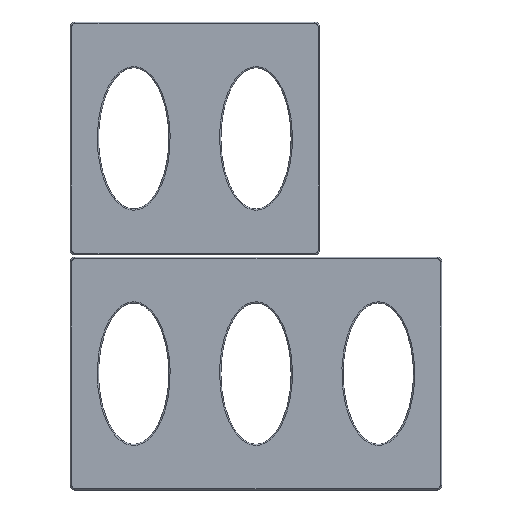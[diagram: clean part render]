
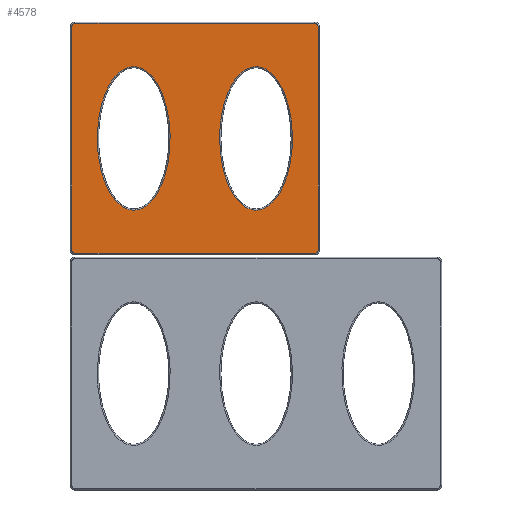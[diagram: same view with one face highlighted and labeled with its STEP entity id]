
A CAD part, front view. The second image highlights one B-rep face of the part: STEP entity #4578.
In plain terms, the highlighted planar face has unit normal (0, -1, 0).
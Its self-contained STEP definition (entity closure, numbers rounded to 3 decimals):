
#48=FACE_BOUND('',#829,.T.);
#49=FACE_BOUND('',#830,.T.);
#64=B_SPLINE_CURVE_WITH_KNOTS('',3,(#10057,#10058,#10059,#10060,#10061,
#10062,#10063,#10064,#10065,#10066,#10067,#10068,#10069,#10070,#10071,#10072,
#10073,#10074,#10075,#10076,#10077,#10078,#10079,#10080,#10081,#10082,#10083,
#10084,#10085,#10086),.UNSPECIFIED.,.T.,.F.,(4,1,1,1,1,1,1,1,1,1,1,1,1,
1,1,1,1,1,1,1,1,1,1,1,1,1,1,4),(-3.142,-3.029,-2.917,
-2.693,-2.468,-2.244,-1.795,
-1.346,-1.047,-0.748,-0.449,
-0.299,-0.15,0.,0.15,
0.299,0.449,0.673,0.898,
1.346,1.571,1.795,2.244,2.468,
2.693,2.917,3.029,3.142),
 .UNSPECIFIED.);
#65=B_SPLINE_CURVE_WITH_KNOTS('',3,(#10088,#10089,#10090,#10091,#10092,
#10093,#10094,#10095,#10096,#10097,#10098,#10099,#10100,#10101,#10102,#10103,
#10104,#10105,#10106,#10107,#10108,#10109,#10110,#10111,#10112,#10113,#10114,
#10115,#10116,#10117),.UNSPECIFIED.,.T.,.F.,(4,1,1,1,1,1,1,1,1,1,1,1,1,
1,1,1,1,1,1,1,1,1,1,1,1,1,1,4),(-3.142,-3.029,-2.917,
-2.693,-2.468,-2.244,-1.795,
-1.346,-1.047,-0.748,-0.449,
-0.299,-0.15,0.,0.15,
0.299,0.449,0.673,0.898,
1.346,1.571,1.795,2.244,2.468,
2.693,2.917,3.029,3.142),
 .UNSPECIFIED.);
#159=PLANE('',#5212);
#524=FACE_OUTER_BOUND('',#828,.T.);
#828=EDGE_LOOP('',(#4015,#4016,#4017,#4018,#4019,#4020,#4021,#4022));
#829=EDGE_LOOP('',(#4023));
#830=EDGE_LOOP('',(#4024));
#1119=LINE('',#10020,#1397);
#1120=LINE('',#10029,#1398);
#1121=LINE('',#10037,#1399);
#1122=LINE('',#10046,#1400);
#1397=VECTOR('',#6645,10.);
#1398=VECTOR('',#6658,10.);
#1399=VECTOR('',#6669,10.);
#1400=VECTOR('',#6680,10.);
#1714=CIRCLE('',#5193,1.4);
#1718=CIRCLE('',#5199,1.4);
#1721=CIRCLE('',#5204,1.4);
#1724=CIRCLE('',#5209,1.4);
#2104=VERTEX_POINT('',#10013);
#2107=VERTEX_POINT('',#10018);
#2108=VERTEX_POINT('',#10022);
#2109=VERTEX_POINT('',#10027);
#2110=VERTEX_POINT('',#10031);
#2111=VERTEX_POINT('',#10035);
#2112=VERTEX_POINT('',#10039);
#2114=VERTEX_POINT('',#10044);
#2115=VERTEX_POINT('',#10056);
#2116=VERTEX_POINT('',#10087);
#2745=EDGE_CURVE('',#2107,#2104,#1119,.T.);
#2747=EDGE_CURVE('',#2108,#2107,#1714,.T.);
#2750=EDGE_CURVE('',#2109,#2108,#1120,.T.);
#2752=EDGE_CURVE('',#2110,#2109,#1718,.T.);
#2754=EDGE_CURVE('',#2111,#2110,#1121,.T.);
#2756=EDGE_CURVE('',#2112,#2111,#1721,.T.);
#2758=EDGE_CURVE('',#2114,#2112,#1122,.T.);
#2761=EDGE_CURVE('',#2104,#2114,#1724,.T.);
#2764=EDGE_CURVE('',#2115,#2115,#64,.T.);
#2765=EDGE_CURVE('',#2116,#2116,#65,.T.);
#4015=ORIENTED_EDGE('',*,*,#2745,.F.);
#4016=ORIENTED_EDGE('',*,*,#2747,.F.);
#4017=ORIENTED_EDGE('',*,*,#2750,.F.);
#4018=ORIENTED_EDGE('',*,*,#2752,.F.);
#4019=ORIENTED_EDGE('',*,*,#2754,.F.);
#4020=ORIENTED_EDGE('',*,*,#2756,.F.);
#4021=ORIENTED_EDGE('',*,*,#2758,.F.);
#4022=ORIENTED_EDGE('',*,*,#2761,.F.);
#4023=ORIENTED_EDGE('',*,*,#2764,.F.);
#4024=ORIENTED_EDGE('',*,*,#2765,.F.);
#4578=ADVANCED_FACE('',(#524,#48,#49),#159,.F.);
#5193=AXIS2_PLACEMENT_3D('',#10024,#6650,#6651);
#5199=AXIS2_PLACEMENT_3D('',#10033,#6663,#6664);
#5204=AXIS2_PLACEMENT_3D('',#10041,#6674,#6675);
#5209=AXIS2_PLACEMENT_3D('',#10050,#6686,#6687);
#5212=AXIS2_PLACEMENT_3D('',#10055,#6694,#6695);
#6645=DIRECTION('',(-1.,0.,0.));
#6650=DIRECTION('center_axis',(0.,1.,0.));
#6651=DIRECTION('ref_axis',(0.707,0.,-0.707));
#6658=DIRECTION('',(0.,0.,-1.));
#6663=DIRECTION('center_axis',(0.,1.,0.));
#6664=DIRECTION('ref_axis',(0.707,0.,0.707));
#6669=DIRECTION('',(1.,0.,0.));
#6674=DIRECTION('center_axis',(0.,1.,0.));
#6675=DIRECTION('ref_axis',(-0.707,0.,0.707));
#6680=DIRECTION('',(0.,0.,1.));
#6686=DIRECTION('center_axis',(0.,1.,0.));
#6687=DIRECTION('ref_axis',(-0.707,0.,-0.707));
#6694=DIRECTION('center_axis',(0.,1.,0.));
#6695=DIRECTION('ref_axis',(1.,0.,0.));
#10013=CARTESIAN_POINT('',(2.,0.,100.6));
#10018=CARTESIAN_POINT('',(104.,0.,100.6));
#10020=CARTESIAN_POINT('',(79.5,0.,100.6));
#10022=CARTESIAN_POINT('',(105.4,0.,102.));
#10024=CARTESIAN_POINT('Origin',(104.,0.,102.));
#10027=CARTESIAN_POINT('',(105.4,0.,197.));
#10029=CARTESIAN_POINT('',(105.4,0.,174.25));
#10031=CARTESIAN_POINT('',(104.,0.,198.4));
#10033=CARTESIAN_POINT('Origin',(104.,0.,197.));
#10035=CARTESIAN_POINT('',(2.,0.,198.4));
#10037=CARTESIAN_POINT('',(26.5,0.,198.4));
#10039=CARTESIAN_POINT('',(0.6,0.,197.));
#10041=CARTESIAN_POINT('Origin',(2.,0.,197.));
#10044=CARTESIAN_POINT('',(0.6,0.,102.));
#10046=CARTESIAN_POINT('',(0.6,0.,124.75));
#10050=CARTESIAN_POINT('Origin',(2.,0.,102.));
#10055=CARTESIAN_POINT('Origin',(53.,0.,149.5));
#10056=CARTESIAN_POINT('',(79.,0.,119.));
#10057=CARTESIAN_POINT('Ctrl Pts',(79.,0.,119.));
#10058=CARTESIAN_POINT('Ctrl Pts',(79.884,0.,119.));
#10059=CARTESIAN_POINT('Ctrl Pts',(81.649,0.,119.3));
#10060=CARTESIAN_POINT('Ctrl Pts',(84.833,0.,120.921));
#10061=CARTESIAN_POINT('Ctrl Pts',(87.935,0.,124.159));
#10062=CARTESIAN_POINT('Ctrl Pts',(90.562,0.,128.788));
#10063=CARTESIAN_POINT('Ctrl Pts',(93.02,0.,135.437));
#10064=CARTESIAN_POINT('Ctrl Pts',(94.577,0.,144.183));
#10065=CARTESIAN_POINT('Ctrl Pts',(94.58,0.,153.639));
#10066=CARTESIAN_POINT('Ctrl Pts',(93.36,0.,161.815));
#10067=CARTESIAN_POINT('Ctrl Pts',(91.344,0.,168.607));
#10068=CARTESIAN_POINT('Ctrl Pts',(88.617,0.,173.886));
#10069=CARTESIAN_POINT('Ctrl Pts',(85.477,0.,177.435));
#10070=CARTESIAN_POINT('Ctrl Pts',(82.527,0.,179.452));
#10071=CARTESIAN_POINT('Ctrl Pts',(79.,0.,180.274));
#10072=CARTESIAN_POINT('Ctrl Pts',(75.47,0.,179.455));
#10073=CARTESIAN_POINT('Ctrl Pts',(72.522,0.,177.435));
#10074=CARTESIAN_POINT('Ctrl Pts',(69.773,0.,174.333));
#10075=CARTESIAN_POINT('Ctrl Pts',(67.436,0.,170.21));
#10076=CARTESIAN_POINT('Ctrl Pts',(64.979,0.,163.564));
#10077=CARTESIAN_POINT('Ctrl Pts',(63.735,0.,156.563));
#10078=CARTESIAN_POINT('Ctrl Pts',(63.421,0.,149.499));
#10079=CARTESIAN_POINT('Ctrl Pts',(63.735,0.,142.43));
#10080=CARTESIAN_POINT('Ctrl Pts',(64.981,0.,135.436));
#10081=CARTESIAN_POINT('Ctrl Pts',(67.438,0.,128.788));
#10082=CARTESIAN_POINT('Ctrl Pts',(70.066,0.,124.158));
#10083=CARTESIAN_POINT('Ctrl Pts',(73.167,0.,120.921));
#10084=CARTESIAN_POINT('Ctrl Pts',(76.351,0.,119.3));
#10085=CARTESIAN_POINT('Ctrl Pts',(78.116,0.,119.));
#10086=CARTESIAN_POINT('Ctrl Pts',(79.,0.,119.));
#10087=CARTESIAN_POINT('',(27.,0.,119.));
#10088=CARTESIAN_POINT('Ctrl Pts',(27.,0.,119.));
#10089=CARTESIAN_POINT('Ctrl Pts',(27.884,0.,119.));
#10090=CARTESIAN_POINT('Ctrl Pts',(29.649,0.,119.3));
#10091=CARTESIAN_POINT('Ctrl Pts',(32.833,0.,120.921));
#10092=CARTESIAN_POINT('Ctrl Pts',(35.935,0.,124.159));
#10093=CARTESIAN_POINT('Ctrl Pts',(38.562,0.,128.788));
#10094=CARTESIAN_POINT('Ctrl Pts',(41.02,0.,135.437));
#10095=CARTESIAN_POINT('Ctrl Pts',(42.577,0.,144.183));
#10096=CARTESIAN_POINT('Ctrl Pts',(42.58,0.,153.639));
#10097=CARTESIAN_POINT('Ctrl Pts',(41.36,0.,161.815));
#10098=CARTESIAN_POINT('Ctrl Pts',(39.344,0.,168.607));
#10099=CARTESIAN_POINT('Ctrl Pts',(36.617,0.,173.886));
#10100=CARTESIAN_POINT('Ctrl Pts',(33.477,0.,177.435));
#10101=CARTESIAN_POINT('Ctrl Pts',(30.527,0.,179.453));
#10102=CARTESIAN_POINT('Ctrl Pts',(27.,0.,180.274));
#10103=CARTESIAN_POINT('Ctrl Pts',(23.47,0.,179.455));
#10104=CARTESIAN_POINT('Ctrl Pts',(20.522,0.,177.435));
#10105=CARTESIAN_POINT('Ctrl Pts',(17.773,0.,174.333));
#10106=CARTESIAN_POINT('Ctrl Pts',(15.436,0.,170.209));
#10107=CARTESIAN_POINT('Ctrl Pts',(12.979,0.,163.564));
#10108=CARTESIAN_POINT('Ctrl Pts',(11.735,0.,156.563));
#10109=CARTESIAN_POINT('Ctrl Pts',(11.421,0.,149.499));
#10110=CARTESIAN_POINT('Ctrl Pts',(11.735,0.,142.43));
#10111=CARTESIAN_POINT('Ctrl Pts',(12.981,0.,135.436));
#10112=CARTESIAN_POINT('Ctrl Pts',(15.437,0.,128.788));
#10113=CARTESIAN_POINT('Ctrl Pts',(18.066,0.,124.158));
#10114=CARTESIAN_POINT('Ctrl Pts',(21.167,0.,120.921));
#10115=CARTESIAN_POINT('Ctrl Pts',(24.351,0.,119.3));
#10116=CARTESIAN_POINT('Ctrl Pts',(26.116,0.,119.));
#10117=CARTESIAN_POINT('Ctrl Pts',(27.,0.,119.));
